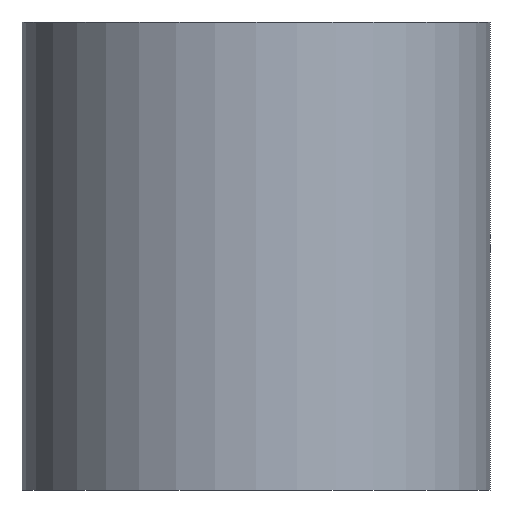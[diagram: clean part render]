
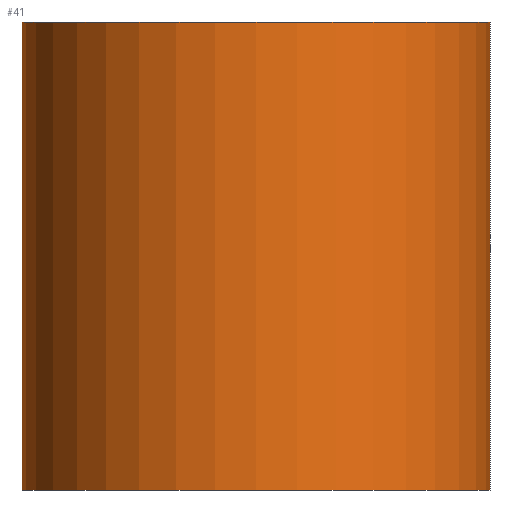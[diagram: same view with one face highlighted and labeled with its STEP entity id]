
A CAD part, front view. The second image highlights one B-rep face of the part: STEP entity #41.
In plain terms, the highlighted cylindrical face has radius 1 mm (diameter 2 mm), a full revolution.
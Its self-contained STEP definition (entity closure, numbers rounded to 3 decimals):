
#1=CARTESIAN_POINT('',(0.,0.,0.));
#2=CARTESIAN_POINT('',(0.,0.,2.));
#3=CARTESIAN_POINT('',(1.,0.,0.));
#4=CARTESIAN_POINT('',(1.,0.,2.));
#5=VERTEX_POINT('',#3);
#6=VERTEX_POINT('',#4);
#7=CARTESIAN_POINT('',(-1.,0.,0.5));
#8=CARTESIAN_POINT('',(-1.,0.,1.5));
#9=VERTEX_POINT('',#7);
#10=VERTEX_POINT('',#8);
#11=DIRECTION('',(0.,0.,1.));
#13=DIRECTION('',(1.,0.,0.));
#14=VECTOR('',#11,1.);
#15=AXIS2_PLACEMENT_3D('',#1,#11,#13);
#16=AXIS2_PLACEMENT_3D('',#2,#11,#13);
#20=CIRCLE('',#15,1.);
#21=CIRCLE('',#16,1.);
#22=LINE('',#3,#14);
#23=LINE('',#7,#14);
#24=EDGE_CURVE('',#5,#5,#20,.T.);
#25=EDGE_CURVE('',#5,#6,#22,.T.);
#26=EDGE_CURVE('',#6,#6,#21,.T.);
#27=EDGE_CURVE('',#5,#6,#22,.T.);
#28=EDGE_CURVE('',#9,#10,#23,.T.);
#30=ORIENTED_EDGE('',*,*,#24,.F.);
#31=ORIENTED_EDGE('',*,*,#25,.T.);
#32=ORIENTED_EDGE('',*,*,#26,.T.);
#33=ORIENTED_EDGE('',*,*,#27,.F.);
#34=EDGE_LOOP('',(#30,#31,#32,#33));
#35=FACE_OUTER_BOUND('',#34,.T.);
#36=ORIENTED_EDGE('',*,*,#28,.T.);
#37=ORIENTED_EDGE('',*,*,#28,.F.);
#38=EDGE_LOOP('',(#36,#37));
#39=FACE_BOUND('',#38,.T.);
#40=CYLINDRICAL_SURFACE('',#15,1.);
#41=ADVANCED_FACE('',(#35,#39),#40,.T.);
